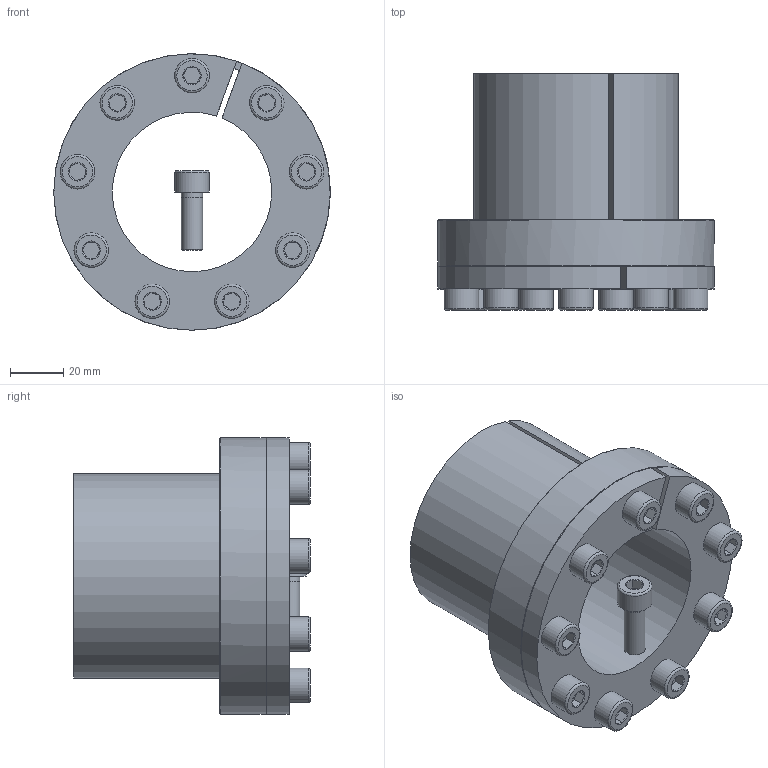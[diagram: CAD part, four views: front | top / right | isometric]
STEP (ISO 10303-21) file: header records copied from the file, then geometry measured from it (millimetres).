
FILE_DESCRIPTION( ( 'Unknown' ), '1' );
FILE_NAME( 'C:/Dokumente und Einstellungen/Sven/Desktop/homepage/cad - homepage/KBS80/KBS 80 - 60 x 77.stp', 'Unknown', ( 'Unknown' ), ( 'Unknown' ), 'XStep 1.0', 'Unknown', ' ' );
FILE_SCHEMA( ( 'automotive_design' ) );
Length unit declared in the file: millimetre
Products named in the file (11): Assem1; KBS 80 - 60 x 77; ISO EN DIN 4762 M8x22; ISO EN DIN 4762 M8x22-oa0; ISO EN DIN 4762 M8x22-oa1; ISO EN DIN 4762 M8x22-oa2; ISO EN DIN 4762 M8x22-oa3; ISO EN DIN 4762 M8x22-oa4; ISO EN DIN 4762 M8x22-oa5; ISO EN DIN 4762 M8x22-oa6; ISO EN DIN 4762 M8x22-oa7
Bounding box: 104 x 89 x 104 mm (x, y, z)
Volume: 502761.2 mm3; surface area: 132298.2 mm2
Topology: 20 solids, 20 shells, 508 faces, 948 edges, 550 vertices
Faces by surface type: plane 232, cone 140, cylinder 100, torus 36
Full cylindrical faces by diameter (mm): 7 x18, 8 x54, 13 x18, 104 x2
Entity records: 6386 total; most frequent: CARTESIAN_POINT 1336, DIRECTION 1036, ORIENTED_EDGE 756, AXIS2_PLACEMENT_3D 455, EDGE_LOOP 385, EDGE_CURVE 378, FACE_OUTER_BOUND 318, VERTEX_POINT 255
